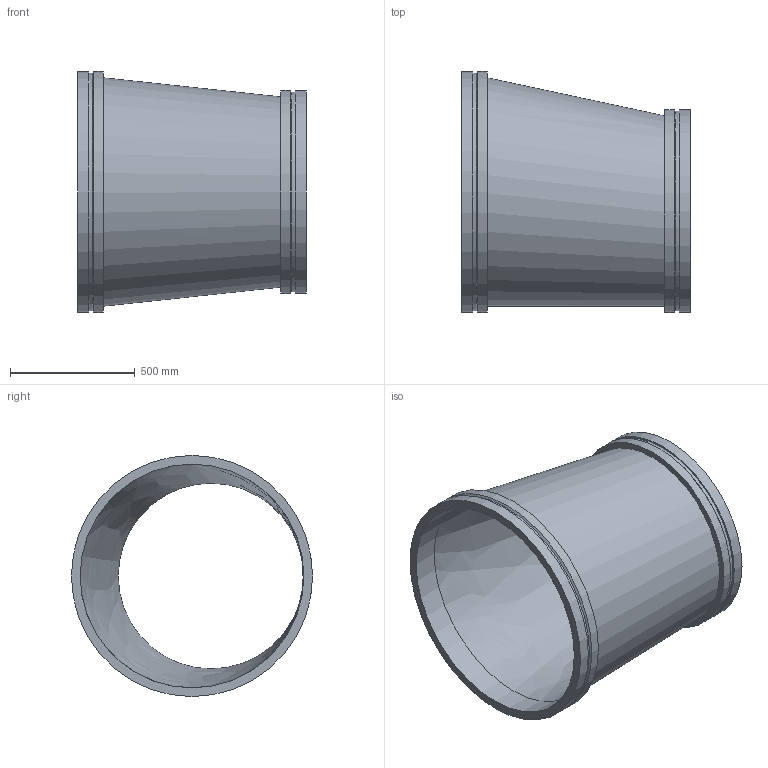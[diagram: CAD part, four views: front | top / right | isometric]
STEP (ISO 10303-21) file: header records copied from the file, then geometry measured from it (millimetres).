
FILE_DESCRIPTION(/* description */ ('VIC REDUCER ECCENTRIC No W51-VR','CAx-IF Rec.Pracs.---Representation and Presentation of Product Manufacturing Information (PMI)---4.0---2014-10-13'),/* implementation_level */ '2;1');
FILE_NAME(/* name */ 'C:\Users\kkamble\AppData\Roaming\Autodesk\ApplicationPlugins\Back Up\Victaulic_Vic-Ring_Reducer Eccentric_No W51 VR (AGR)\Victaulic_Vic-Ring_Reducer Eccentric_No W51 VR (AGR)_36.0x30.0 (900x750).stp',/* time_stamp */ '2020-09-10T11:50:44+05:00',/* author */ ('CONSTRUCTION PIPING SERVICES'),/* organization */ ('Victaulic'),/* preprocessor_version */ 'ST-DEVELOPER v17.2',/* originating_system */ 'Autodesk Inventor 2019',/* authorisation */ '');
FILE_SCHEMA (('AP242_MANAGED_MODEL_BASED_3D_ENGINEERING_MIM_LF { 1 0 10303 442 1 1 4 }'));
Length unit declared in the file: inch
Products named in the file (1): W51 VR-36.0x30.0
Bounding box: 914.4 x 965.2 x 965.2 mm (x, y, z)
Volume: 36036858.6 mm3; surface area: 5207680.8 mm2
Topology: 1 solids, 1 shells, 18 faces, 49 edges, 37 vertices
Faces by surface type: cylinder 8, plane 6, cone 2, bspline 2
Full cylindrical faces by diameter (mm): 742.95 x1, 798.322 x1, 812.8 x2, 895.35 x1, 950.722 x1, 965.2 x2
Entity records: 792 total; most frequent: CARTESIAN_POINT 158, DIRECTION 144, ORIENTED_EDGE 98, AXIS2_PLACEMENT_3D 67, EDGE_CURVE 49, CIRCLE 37, VERTEX_POINT 37, EDGE_LOOP 24
